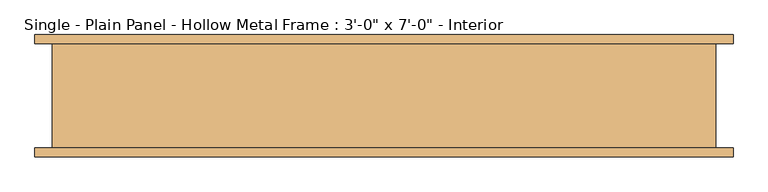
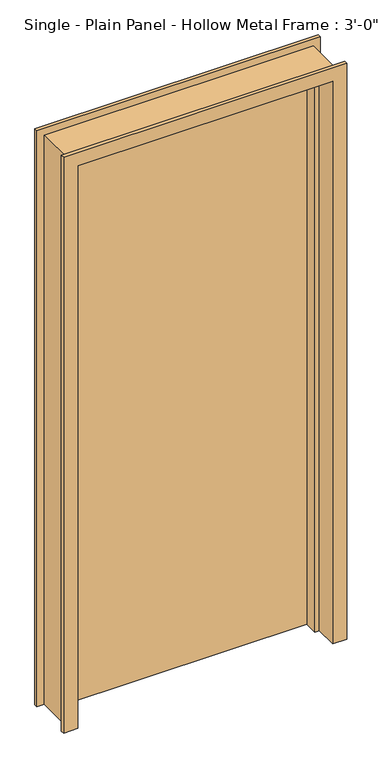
"""IFC4 building model written with IfcOpenShell, lengths in millimetres: door geometry."""

import ifcopenshell
import ifcopenshell.guid

model = None  # the IFC model being written
_history = None  # IfcOwnerHistory: only IFC2X3 demands one
_inside = {}  # id of a spatial element -> (the spatial element, [elements in it])
_under = {}  # id of a project, library or spatial element -> (it, [spatial elements below it])
_declared = {}  # id of a project -> (the project, [libraries it declares])
_typed = {}  # id of a type object -> (the type object, [elements of that type])
_made_of = {}  # id of a material, layer set ... -> (it, [elements and type objects made of it])


def new_model(schema):
    """Start an empty IFC model of exactly this schema.

    Asked for "IFC4X3", IfcOpenShell would pick the latest addendum, in which some entities
    have other attributes; the version numbers below select the first issue.
    IFC2X3 requires an IfcOwnerHistory on every rooted entity: one is made here for all.
    """
    global model, _history
    if schema == "IFC4X3":
        model = ifcopenshell.file(schema_version=(4, 3, 0, 0))
    else:
        model = ifcopenshell.file(schema=schema)
    _inside.clear()
    _under.clear()
    _declared.clear()
    _typed.clear()
    _made_of.clear()
    _history = None
    if model.schema == "IFC2X3":
        org = make("IfcOrganization", Name="unknown")
        user = make(
            "IfcPersonAndOrganization",
            ThePerson=make("IfcPerson", FamilyName="unknown"),
            TheOrganization=org,
        )
        app = make(
            "IfcApplication",
            ApplicationDeveloper=org,
            Version="unknown",
            ApplicationFullName="unknown",
            ApplicationIdentifier="unknown",
        )
        _history = make(
            "IfcOwnerHistory",
            OwningUser=user,
            OwningApplication=app,
            ChangeAction="ADDED",
            CreationDate=0,
        )
    return model


def make(cls, **values):
    """One entity of the class cls with the attributes given. An attribute that is None is left unset."""
    return model.create_entity(
        cls, **{name: value for name, value in values.items() if value is not None}
    )


def rooted(cls, **values):
    """An entity with a GlobalId (a new one), such as an element, a storey or a relation."""
    return make(cls, GlobalId=ifcopenshell.guid.new(), OwnerHistory=_history, **values)


def si_unit(unit_type, name, prefix=None):
    """IfcSIUnit, for example si_unit("LENGTHUNIT", "METRE", prefix="MILLI")."""
    return make("IfcSIUnit", UnitType=unit_type, Prefix=prefix, Name=name)


def assignment(units):
    """IfcUnitAssignment: the units of a project."""
    return None if units is None else make("IfcUnitAssignment", Units=units)


def point(xyz):
    """IfcCartesianPoint."""
    return None if xyz is None else make("IfcCartesianPoint", Coordinates=xyz)


def direction(xyz):
    """IfcDirection."""
    return None if xyz is None else make("IfcDirection", DirectionRatios=xyz)


def frame(location, z_axis=None, x_axis=None):
    """IfcAxis2Placement3D, a coordinate frame: its origin and axes. An axis left out is left unset."""
    return make(
        "IfcAxis2Placement3D",
        Location=point(location),
        Axis=direction(z_axis),
        RefDirection=direction(x_axis),
    )


def origin():
    """The frame at (0, 0, 0) with its axes left unset."""
    return frame((0.0, 0.0, 0.0))


def origin_with_axes():
    """The frame at (0, 0, 0) with the z axis (0, 0, 1) and the x axis (1, 0, 0) written out."""
    return frame((0.0, 0.0, 0.0), z_axis=(0.0, 0.0, 1.0), x_axis=(1.0, 0.0, 0.0))


def place(relative_to, where):
    """IfcLocalPlacement: puts the frame where relative to a parent placement (None: the world)."""
    return make(
        "IfcLocalPlacement", PlacementRelTo=relative_to, RelativePlacement=where
    )


def context(
    kind, dimensions, precision=None, world=None, true_north=None, identifier=None
):
    """IfcGeometricRepresentationContext, for example the 3D "Model" context."""
    return make(
        "IfcGeometricRepresentationContext",
        ContextIdentifier=identifier,
        ContextType=kind,
        CoordinateSpaceDimension=dimensions,
        Precision=precision,
        WorldCoordinateSystem=world,
        TrueNorth=true_north,
    )


def project(units=None, contexts=None):
    """IfcProject with its units and contexts."""
    return rooted(
        "IfcProject",
        Name="project",
        RepresentationContexts=contexts,
        UnitsInContext=assignment(units),
    )


def spatial(cls, under=None, at=None, **own):
    """A site, building, storey or space (cls), placed at a placement, below another one or the project."""
    s = rooted(cls, ObjectPlacement=at, **own)
    if under is not None:
        _under.setdefault(under.id(), (under, []))[1].append(s)
    return s


def polyline(points):
    """IfcPolyline through the points."""
    return make("IfcPolyline", Points=[point(p) for p in points])


def outline(outer, holes=None, kind="AREA"):
    """IfcArbitraryClosedProfileDef: a profile drawn as a closed curve; with holes, ...WithVoids."""
    if holes is None:
        return make("IfcArbitraryClosedProfileDef", ProfileType=kind, OuterCurve=outer)
    return make(
        "IfcArbitraryProfileDefWithVoids",
        ProfileType=kind,
        OuterCurve=outer,
        InnerCurves=holes,
    )


def extrude(swept, where, along, depth):
    """IfcExtrudedAreaSolid: the profile swept, set in the frame where, extruded along a direction by depth."""
    return make(
        "IfcExtrudedAreaSolid",
        SweptArea=swept,
        Position=where,
        ExtrudedDirection=direction(along),
        Depth=depth,
    )


def faces_of(points, faces, orient=None, outer=None):
    """IfcFace entities. A face is a list of loops; a loop is a list of indices into points, from 0.

    orient and outer hold one flag for each loop. By default every Orientation is true, the
    first loop of a face is its IfcFaceOuterBound and the others are IfcFaceBound.
    """
    made = []
    for i, loops in enumerate(faces):
        bounds = []
        for j, loop in enumerate(loops):
            is_outer = j == 0 if outer is None else outer[i][j]
            bounds.append(
                make(
                    "IfcFaceOuterBound" if is_outer else "IfcFaceBound",
                    Bound=make("IfcPolyLoop", Polygon=[points[k] for k in loop]),
                    Orientation=True if orient is None else orient[i][j],
                )
            )
        made.append(make("IfcFace", Bounds=bounds))
    return made


def faceted_brep(points, faces, orient=None, outer=None, voids=None):
    """IfcFacetedBrep: a solid bounded by flat faces; with voids (closed shells), ...WithVoids."""
    shared = [point(p) for p in points]
    hull = make("IfcClosedShell", CfsFaces=faces_of(shared, faces, orient, outer))
    if voids is None:
        return make("IfcFacetedBrep", Outer=hull)
    return make(
        "IfcFacetedBrepWithVoids",
        Outer=hull,
        Voids=[
            make(cls, CfsFaces=faces_of(shared, fs, o, b)) for cls, fs, o, b in voids
        ],
    )


def shape(context_of_items, identifier, shape_type, items):
    """IfcShapeRepresentation: the items that make up one representation, for example the "Body"."""
    return make(
        "IfcShapeRepresentation",
        ContextOfItems=context_of_items,
        RepresentationIdentifier=identifier,
        RepresentationType=shape_type,
        Items=items,
    )


def source(mapping_origin, context_of_items, identifier, shape_type, items):
    """IfcRepresentationMap: a shape defined once, which mapped items show again and again."""
    return make(
        "IfcRepresentationMap",
        MappingOrigin=mapping_origin,
        MappedRepresentation=shape(context_of_items, identifier, shape_type, items),
    )


def transform(
    local_origin,
    x_axis=None,
    y_axis=None,
    z_axis=None,
    scale=None,
    scale2=None,
    scale3=None,
    uniform=True,
):
    """IfcCartesianTransformationOperator3D, or its non-uniform kind. x_axis, y_axis, z_axis: its Axis1, 2, 3."""
    if uniform:
        return make(
            "IfcCartesianTransformationOperator3D",
            Axis1=direction(x_axis),
            Axis2=direction(y_axis),
            LocalOrigin=point(local_origin),
            Scale=scale,
            Axis3=direction(z_axis),
        )
    return make(
        "IfcCartesianTransformationOperator3DnonUniform",
        Axis1=direction(x_axis),
        Axis2=direction(y_axis),
        LocalOrigin=point(local_origin),
        Scale=scale,
        Axis3=direction(z_axis),
        Scale2=scale2,
        Scale3=scale3,
    )


def mapped(mapping_source, mapping_target):
    """IfcMappedItem: shows the shape of a source again, moved by a transform."""
    return make(
        "IfcMappedItem", MappingSource=mapping_source, MappingTarget=mapping_target
    )


def made_of(thing, what):
    """Note that an element or type object is made of a material, layer set ...; save() writes the relation."""
    if what is not None:
        _made_of.setdefault(what.id(), (what, []))[1].append(thing)
    return thing


def element(
    cls,
    number,
    at=None,
    inside=None,
    cuts=None,
    type_object=None,
    material=None,
    context=None,
    identifier="Body",
    shape_type=None,
    held_by="IfcProductDefinitionShape",
    body=None,
    shapes=None,
    **own,
):
    """One element of the class cls, such as IfcWall. Its Tag is "e" and its number.

    at: its placement. inside: the storey or other place that contains it. cuts: it is an
    opening in that element (IfcRelVoidsElement). A single representation is given by context,
    identifier, shape_type and body (its items); several are given by shapes. held_by: the class
    of the entity that holds the representations. save() writes the other relations.
    """
    e = rooted(cls, Tag="e%d" % number, ObjectPlacement=at, **own)
    if body is not None:
        shapes = [shape(context, identifier, shape_type, body)]
    if shapes is not None:
        e.Representation = make(held_by, Representations=shapes)
    if inside is not None:
        _inside.setdefault(inside.id(), (inside, []))[1].append(e)
    if cuts is not None:
        rooted(
            "IfcRelVoidsElement", RelatingBuildingElement=cuts, RelatedOpeningElement=e
        )
    if type_object is not None:
        _typed.setdefault(type_object.id(), (type_object, []))[1].append(e)
    return made_of(e, material)


def aggregate(whole, parts):
    """IfcRelAggregates: a whole, such as a stair, and the parts it consists of."""
    return rooted("IfcRelAggregates", RelatingObject=whole, RelatedObjects=parts)


def save(model, path):
    """Write the relations noted so far, then the file.

    IfcRelAggregates (storeys below a building ...), IfcRelContainedInSpatialStructure (elements
    in a storey), IfcRelDefinesByType, IfcRelAssociatesMaterial and IfcRelDeclares: one each for
    every whole, place, type object, material and project.
    """
    for whole, parts in _under.values():
        aggregate(whole, parts)
    for where, things in _inside.values():
        rooted(
            "IfcRelContainedInSpatialStructure",
            RelatedElements=things,
            RelatingStructure=where,
        )
    for kind, things in _typed.values():
        rooted("IfcRelDefinesByType", RelatedObjects=things, RelatingType=kind)
    for what, things in _made_of.values():
        rooted("IfcRelAssociatesMaterial", RelatedObjects=things, RelatingMaterial=what)
    for by, libraries in _declared.values():
        rooted("IfcRelDeclares", RelatingContext=by, RelatedDefinitions=libraries)
    model.write(path)


def door_5714a8ac(model_context):
    return source(origin(), model_context, "Body", "SolidModel", [
        extrude(outline(polyline([(457.2, 44.45), (-457.2, 44.45), (-457.2, 88.9), (457.2, 88.9), (457.2, 44.45)])), origin_with_axes(), (0.0, 0.0, 1.0), 2133.6),
        faceted_brep([(508.0, -76.2, 0.0), (508.0, -88.9, 0.0), (457.2, -88.9, 0.0), (457.2, -6.35, 0.0), (441.325, -6.35, 0.0), (441.325, 44.45, 0.0), (457.2, 44.45, 0.0), (457.2, 88.9, 0.0), (508.0, 88.9, 0.0), (508.0, 76.2, 0.0), (482.6, 76.2, 0.0), (482.6, -76.2, 0.0), (508.0, -76.2, 2184.4), (508.0, -88.9, 2184.4), (-508.0, -88.9, 2184.4), (-508.0, -88.9, 0.0), (-457.2, -88.9, 0.0), (-457.2, -88.9, 2133.6), (457.2, -88.9, 2133.6), (457.2, -6.35, 2133.6), (-457.2, -6.35, 2133.6), (-457.2, -6.35, 0.0), (-441.325, -6.35, 0.0), (-441.325, -6.35, 2117.725), (441.325, -6.35, 2117.725), (441.325, 44.45, 2117.725), (-441.325, 44.45, 2117.725), (-441.325, 44.45, 0.0), (-457.2, 44.45, 0.0), (-457.2, 44.45, 2133.6), (457.2, 44.45, 2133.6), (457.2, 88.9, 2133.6), (-457.2, 88.9, 2133.6), (-457.2, 88.9, 0.0), (-508.0, 88.9, 0.0), (-508.0, 88.9, 2184.4), (508.0, 88.9, 2184.4), (508.0, 76.2, 2184.4), (-508.0, 76.2, 2184.4), (-508.0, 76.2, 0.0), (-482.6, 76.2, 0.0), (-482.6, 76.2, 2159.0), (482.6, 76.2, 2159.0), (482.6, -76.2, 2159.0), (-482.6, -76.2, 2159.0), (-482.6, -76.2, 0.0), (-508.0, -76.2, 0.0), (-508.0, -76.2, 2184.4)], [[[0, 1, 2, 3, 4, 5, 6, 7, 8, 9, 10, 11]], [[1, 0, 12, 13]], [[2, 1, 13, 14, 15, 16, 17, 18]], [[3, 2, 18, 19]], [[4, 3, 19, 20, 21, 22, 23, 24]], [[5, 4, 24, 25]], [[6, 5, 25, 26, 27, 28, 29, 30]], [[7, 6, 30, 31]], [[8, 7, 31, 32, 33, 34, 35, 36]], [[9, 8, 36, 37]], [[10, 9, 37, 38, 39, 40, 41, 42]], [[11, 10, 42, 43]], [[0, 11, 43, 44, 45, 46, 47, 12]], [[14, 47, 46, 15]], [[46, 45, 40, 39, 34, 33, 28, 27, 22, 21, 16, 15]], [[20, 17, 16, 21]], [[26, 23, 22, 27]], [[32, 29, 28, 33]], [[38, 35, 34, 39]], [[44, 41, 40, 45]], [[13, 12, 47, 14]], [[19, 18, 17, 20]], [[25, 24, 23, 26]], [[31, 30, 29, 32]], [[37, 36, 35, 38]], [[43, 42, 41, 44]]]),
    ])


if __name__ == "__main__":
    model = new_model("IFC4")
    model_context = context("Model", 3, world=origin())
    ifc_project = project(units=[si_unit("LENGTHUNIT", "METRE", prefix="MILLI")], contexts=[model_context])
    site = spatial("IfcSite", under=ifc_project)
    building = spatial("IfcBuilding", under=site)
    placement = place(None, origin())
    door_shape = door_5714a8ac(model_context)
    element("IfcDoor", 1, ObjectType="Single - Plain Panel - Hollow Metal Frame : 3'-0\" x 7'-0\" - Interior", at=placement, inside=building, context=model_context, shape_type="MappedRepresentation", body=[
        mapped(door_shape, transform((0.0, 0.0, 0.0), x_axis=(1.0, 0.0, 0.0), y_axis=(0.0, 1.0, 0.0), z_axis=(0.0, 0.0, 1.0))),
    ])
    save(model, "model.ifc")
